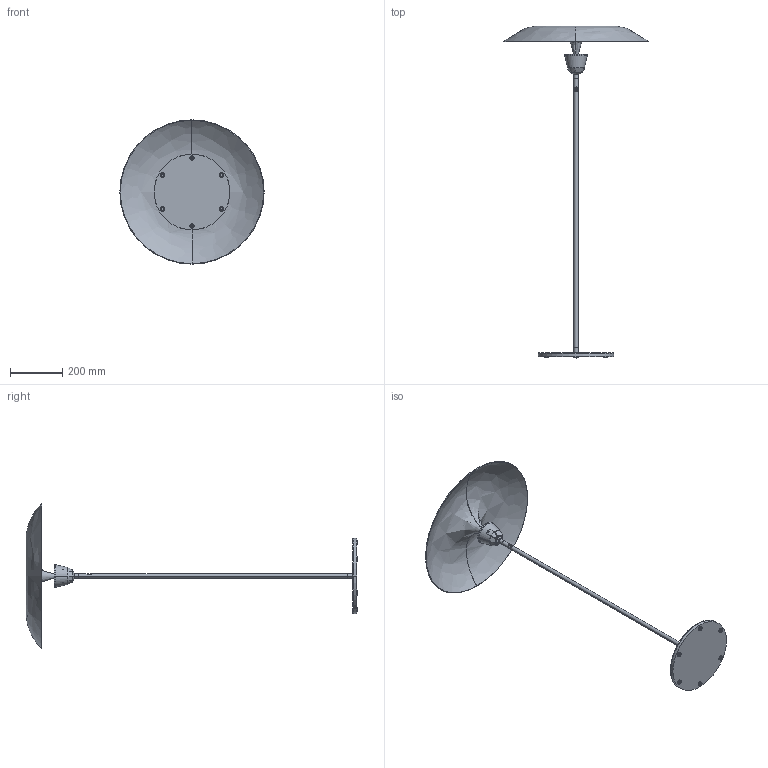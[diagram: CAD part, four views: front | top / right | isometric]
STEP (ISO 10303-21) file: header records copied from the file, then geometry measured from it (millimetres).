
FILE_DESCRIPTION(/* description */ (''),/* implementation_level */ '2;1');
FILE_NAME(/* name */ 'Kantarell Floor Lamp',/* time_stamp */ '2025-06-13T10:52:02+02:00',/* author */ (''),/* organization */ (''),/* preprocessor_version */ 'ST-DEVELOPER v19.2',/* originating_system */ 'Rhino 8.19',/* authorisation */ '');
FILE_SCHEMA (('CONFIG_CONTROL_DESIGN'));
Length unit declared in the file: millimetre
Products named in the file (6): Document; KANTARELL-F-01; KANTARELL-F-13; KANTARELL-F-11; KANTARELL-F-50; KANTARELL-41
Bounding box: 552.83 x 1271.61 x 552.83 mm (x, y, z)
Volume: 1721272.5 mm3; surface area: 964848.9 mm2
Topology: 7 solids, 7 shells, 220 faces, 502 edges, 318 vertices
Faces by surface type: cylinder 83, bspline 77, plane 60
Entity records: 10231 total; most frequent: CARTESIAN_POINT 5153, ORIENTED_EDGE 986, DIRECTION 679, EDGE_CURVE 493, AXIS2_PLACEMENT_3D 411, VERTEX_POINT 318, EDGE_LOOP 273, TRIMMED_CURVE 251
